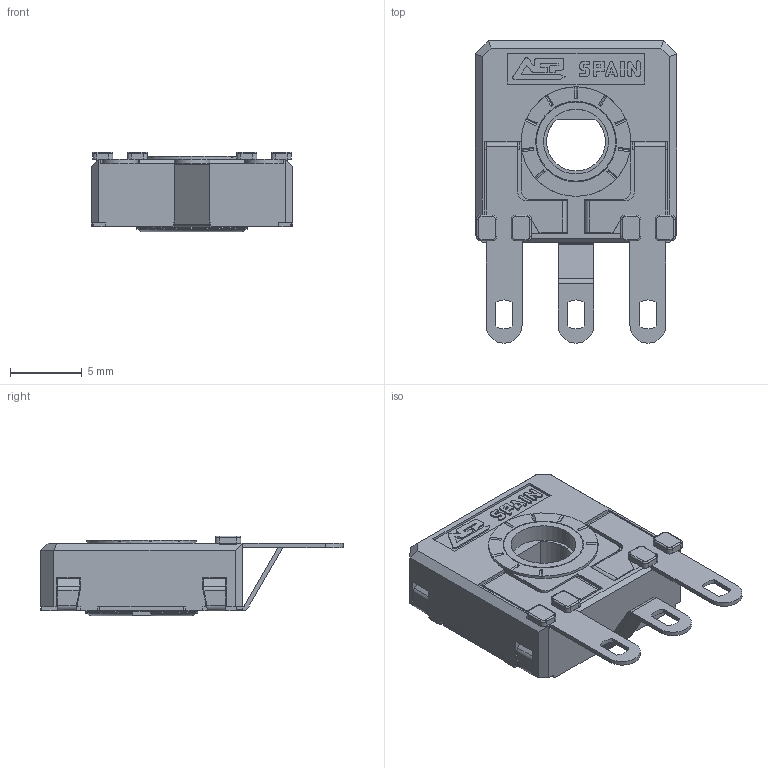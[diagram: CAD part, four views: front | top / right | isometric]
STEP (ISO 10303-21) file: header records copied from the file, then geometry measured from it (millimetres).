
FILE_DESCRIPTION(/* description */ (''),/* implementation_level */ '2;1');
FILE_NAME(/* name */ 'C:\Users\CEM\Desktop\ENVIAR\TRANSICION 3D CATALOGOS\RS14DHC0.stp',/* time_stamp */ '2025-12-10T10:19:41+01:00',/* author */ ('CEM'),/* organization */ (''),/* preprocessor_version */ 'ST-DEVELOPER v16.13',/* originating_system */ 'Autodesk Inventor 2018',/* authorisation */ '');
FILE_SCHEMA (('AUTOMOTIVE_DESIGN { 1 0 10303 214 3 1 1 }'));
Length unit declared in the file: millimetre
Products named in the file (1): CARCASA CA14 PGA
Bounding box: 14 x 21 x 5.55 mm (x, y, z)
Volume: 523 mm3; surface area: 1471.7 mm2
Topology: 1 solids, 1 shells, 652 faces, 1830 edges, 1175 vertices
Faces by surface type: plane 472, cylinder 143, torus 23, bspline 8, cone 6
Full cylindrical faces by diameter (mm): 4.5 x1, 5.5 x1, 5.6 x1, 5.752 x1, 6.8 x1, 7.6 x1
Entity records: 21077 total; most frequent: CARTESIAN_POINT 3850, ORIENTED_EDGE 3630, DIRECTION 3447, EDGE_CURVE 1815, LINE 1417, VECTOR 1417, VERTEX_POINT 1170, AXIS2_PLACEMENT_3D 1015
